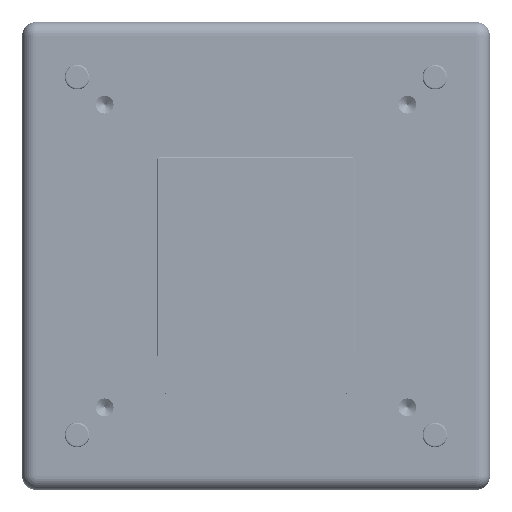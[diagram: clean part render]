
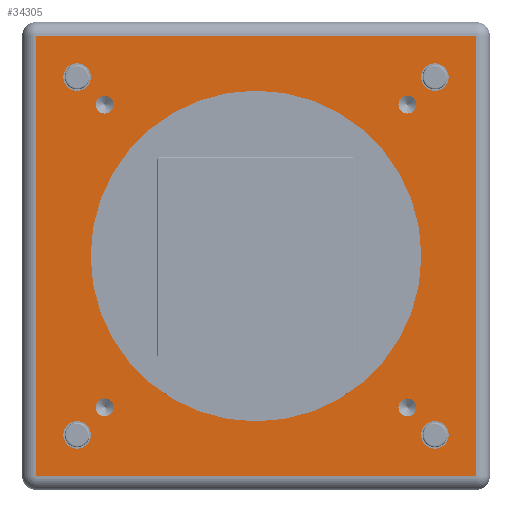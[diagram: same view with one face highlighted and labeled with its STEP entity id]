
A CAD part, front view. The second image highlights one B-rep face of the part: STEP entity #34305.
In plain terms, the highlighted planar face has unit normal (0, -1, 0) as drawn and (0, 0, 1) by its records, which use the part's own axes.
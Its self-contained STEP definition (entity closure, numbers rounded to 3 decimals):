
#1671=LINE('',#55431,#2921);
#1672=LINE('',#55445,#2922);
#1673=LINE('',#55447,#2923);
#1674=LINE('',#55449,#2924);
#2921=VECTOR('',#42564,10.);
#2922=VECTOR('',#42587,10.);
#2923=VECTOR('',#42590,10.);
#2924=VECTOR('',#42593,10.);
#3867=PLANE('',#37195);
#7171=FACE_BOUND('',#12017,.T.);
#7172=FACE_BOUND('',#12018,.T.);
#7173=FACE_BOUND('',#12019,.T.);
#7174=FACE_BOUND('',#12020,.T.);
#7175=FACE_BOUND('',#12021,.T.);
#7176=FACE_BOUND('',#12022,.T.);
#7177=FACE_BOUND('',#12023,.T.);
#7178=FACE_BOUND('',#12024,.T.);
#7179=FACE_BOUND('',#12025,.T.);
#9346=FACE_OUTER_BOUND('',#12016,.T.);
#12016=EDGE_LOOP('',(#26985,#26986,#26987,#26988));
#12017=EDGE_LOOP('',(#26989));
#12018=EDGE_LOOP('',(#26990));
#12019=EDGE_LOOP('',(#26991));
#12020=EDGE_LOOP('',(#26992));
#12021=EDGE_LOOP('',(#26993));
#12022=EDGE_LOOP('',(#26994));
#12023=EDGE_LOOP('',(#26995));
#12024=EDGE_LOOP('',(#26996));
#12025=EDGE_LOOP('',(#26997));
#16154=CIRCLE('',#36890,30.05);
#16223=CIRCLE('',#37116,1.621);
#16225=CIRCLE('',#37120,1.621);
#16227=CIRCLE('',#37123,1.621);
#16229=CIRCLE('',#37127,1.621);
#16236=CIRCLE('',#37144,2.5);
#16240=CIRCLE('',#37152,2.5);
#16244=CIRCLE('',#37160,2.5);
#16248=CIRCLE('',#37168,2.5);
#18363=VERTEX_POINT('',#52151);
#18856=VERTEX_POINT('',#55252);
#18858=VERTEX_POINT('',#55258);
#18860=VERTEX_POINT('',#55263);
#18863=VERTEX_POINT('',#55312);
#18871=VERTEX_POINT('',#55379);
#18875=VERTEX_POINT('',#55391);
#18879=VERTEX_POINT('',#55403);
#18883=VERTEX_POINT('',#55415);
#18884=VERTEX_POINT('',#55419);
#18885=VERTEX_POINT('',#55425);
#18886=VERTEX_POINT('',#55433);
#18887=VERTEX_POINT('',#55439);
#21598=EDGE_CURVE('',#18363,#18363,#16154,.T.);
#22319=EDGE_CURVE('',#18856,#18856,#16223,.T.);
#22321=EDGE_CURVE('',#18858,#18858,#16225,.T.);
#22323=EDGE_CURVE('',#18860,#18860,#16227,.T.);
#22326=EDGE_CURVE('',#18863,#18863,#16229,.T.);
#22334=EDGE_CURVE('',#18871,#18871,#16236,.T.);
#22338=EDGE_CURVE('',#18875,#18875,#16240,.T.);
#22342=EDGE_CURVE('',#18879,#18879,#16244,.T.);
#22346=EDGE_CURVE('',#18883,#18883,#16248,.T.);
#22353=EDGE_CURVE('',#18884,#18885,#1671,.T.);
#22360=EDGE_CURVE('',#18885,#18887,#1672,.T.);
#22361=EDGE_CURVE('',#18887,#18886,#1673,.T.);
#22362=EDGE_CURVE('',#18886,#18884,#1674,.T.);
#26985=ORIENTED_EDGE('',*,*,#22353,.F.);
#26986=ORIENTED_EDGE('',*,*,#22362,.F.);
#26987=ORIENTED_EDGE('',*,*,#22361,.F.);
#26988=ORIENTED_EDGE('',*,*,#22360,.F.);
#26989=ORIENTED_EDGE('',*,*,#21598,.T.);
#26990=ORIENTED_EDGE('',*,*,#22319,.T.);
#26991=ORIENTED_EDGE('',*,*,#22321,.T.);
#26992=ORIENTED_EDGE('',*,*,#22323,.T.);
#26993=ORIENTED_EDGE('',*,*,#22326,.T.);
#26994=ORIENTED_EDGE('',*,*,#22334,.T.);
#26995=ORIENTED_EDGE('',*,*,#22338,.T.);
#26996=ORIENTED_EDGE('',*,*,#22342,.T.);
#26997=ORIENTED_EDGE('',*,*,#22346,.T.);
#34305=ADVANCED_FACE('',(#9346,#7171,#7172,#7173,#7174,#7175,#7176,#7177,
#7178,#7179),#3867,.T.);
#36890=AXIS2_PLACEMENT_3D('',#52152,#41564,#41565);
#37116=AXIS2_PLACEMENT_3D('',#55253,#42434,#42435);
#37120=AXIS2_PLACEMENT_3D('',#55259,#42442,#42443);
#37123=AXIS2_PLACEMENT_3D('',#55264,#42448,#42449);
#37127=AXIS2_PLACEMENT_3D('',#55313,#42456,#42457);
#37144=AXIS2_PLACEMENT_3D('',#55380,#42490,#42491);
#37152=AXIS2_PLACEMENT_3D('',#55392,#42506,#42507);
#37160=AXIS2_PLACEMENT_3D('',#55404,#42522,#42523);
#37168=AXIS2_PLACEMENT_3D('',#55416,#42538,#42539);
#37195=AXIS2_PLACEMENT_3D('',#55451,#42596,#42597);
#41564=DIRECTION('center_axis',(0.,0.,-1.));
#41565=DIRECTION('ref_axis',(-1.,0.,0.));
#42434=DIRECTION('center_axis',(0.,0.,-1.));
#42435=DIRECTION('ref_axis',(1.,0.,0.));
#42442=DIRECTION('center_axis',(0.,0.,-1.));
#42443=DIRECTION('ref_axis',(1.,0.,0.));
#42448=DIRECTION('center_axis',(0.,0.,-1.));
#42449=DIRECTION('ref_axis',(1.,0.,0.));
#42456=DIRECTION('center_axis',(0.,0.,-1.));
#42457=DIRECTION('ref_axis',(1.,0.,0.));
#42490=DIRECTION('center_axis',(0.,0.,-1.));
#42491=DIRECTION('ref_axis',(1.,0.,0.));
#42506=DIRECTION('center_axis',(0.,0.,-1.));
#42507=DIRECTION('ref_axis',(1.,0.,0.));
#42522=DIRECTION('center_axis',(0.,0.,-1.));
#42523=DIRECTION('ref_axis',(1.,0.,0.));
#42538=DIRECTION('center_axis',(0.,0.,-1.));
#42539=DIRECTION('ref_axis',(1.,0.,0.));
#42564=DIRECTION('',(0.,-1.,0.));
#42587=DIRECTION('',(-1.,0.,0.));
#42590=DIRECTION('',(0.,1.,0.));
#42593=DIRECTION('',(1.,0.,0.));
#42596=DIRECTION('center_axis',(0.,0.,1.));
#42597=DIRECTION('ref_axis',(1.,0.,0.));
#52151=CARTESIAN_POINT('',(30.05,0.,9.5));
#52152=CARTESIAN_POINT('Origin',(0.,0.,9.5));
#55252=CARTESIAN_POINT('',(-25.879,-27.5,9.5));
#55253=CARTESIAN_POINT('Origin',(-27.5,-27.5,9.5));
#55258=CARTESIAN_POINT('',(29.121,-27.5,9.5));
#55259=CARTESIAN_POINT('Origin',(27.5,-27.5,9.5));
#55263=CARTESIAN_POINT('',(29.121,27.5,9.5));
#55264=CARTESIAN_POINT('Origin',(27.5,27.5,9.5));
#55312=CARTESIAN_POINT('',(-25.879,27.5,9.5));
#55313=CARTESIAN_POINT('Origin',(-27.5,27.5,9.5));
#55379=CARTESIAN_POINT('',(-30.,-32.5,9.5));
#55380=CARTESIAN_POINT('Origin',(-32.5,-32.5,9.5));
#55391=CARTESIAN_POINT('',(35.,-32.5,9.5));
#55392=CARTESIAN_POINT('Origin',(32.5,-32.5,9.5));
#55403=CARTESIAN_POINT('',(35.,32.5,9.5));
#55404=CARTESIAN_POINT('Origin',(32.5,32.5,9.5));
#55415=CARTESIAN_POINT('',(-30.,32.5,9.5));
#55416=CARTESIAN_POINT('Origin',(-32.5,32.5,9.5));
#55419=CARTESIAN_POINT('',(40.,40.,9.5));
#55425=CARTESIAN_POINT('',(40.,-40.,9.5));
#55431=CARTESIAN_POINT('',(40.,21.25,9.5));
#55433=CARTESIAN_POINT('',(-40.,40.,9.5));
#55439=CARTESIAN_POINT('',(-40.,-40.,9.5));
#55445=CARTESIAN_POINT('',(21.25,-40.,9.5));
#55447=CARTESIAN_POINT('',(-40.,-21.25,9.5));
#55449=CARTESIAN_POINT('',(-21.25,40.,9.5));
#55451=CARTESIAN_POINT('Origin',(0.,0.,
9.5));
